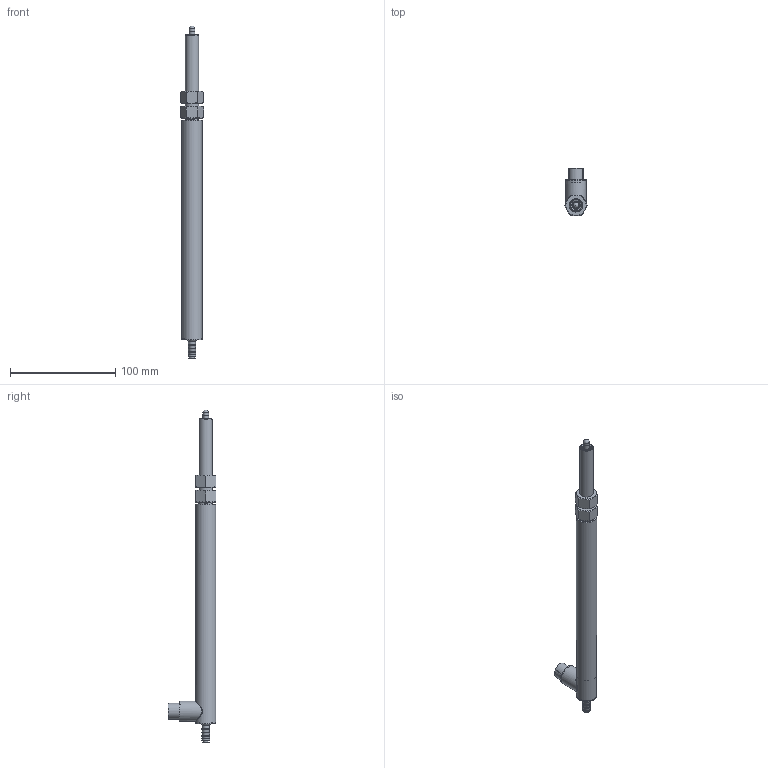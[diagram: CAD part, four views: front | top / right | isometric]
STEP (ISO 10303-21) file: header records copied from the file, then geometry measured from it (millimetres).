
FILE_DESCRIPTION(/* description */ (''),/* implementation_level */ '2;1');
FILE_NAME(/* name */ 'F:\GHRA SERIES\GHRA-750-D-XXXX\GHRA-750-D-1000\GHRA-750-D-1000 Assembly.iam.stp',/* time_stamp */ '2021-11-17T12:46:05-05:00',/* author */ ('J. Nielson'),/* organization */ (''),/* preprocessor_version */ 'ST-DEVELOPER v18.1',/* originating_system */ 'Autodesk Inventor 2022',/* authorisation */ '');
FILE_SCHEMA (('AUTOMOTIVE_DESIGN { 1 0 10303 214 3 1 1 }'));
Length unit declared in the file: inch
Products named in the file (4): GHRA-750-A-1000 Assembly; GHRA-750-A-1000 HOUSING_Substitute_1; GHRA-750-A-1000 SHAFT_Substitute_1; AS 2465 - 1/2  UNF
Assembly tree (4 placements, depth 2):
  GHRA-750-A-1000 Assembly
    GHRA-750-A-1000 HOUSING_Substitute_1
    GHRA-750-A-1000 SHAFT_Substitute_1
    AS 2465 - 1/2  UNF  x2
Bounding box: 22 x 45.24 x 314.83 mm (x, y, z)
Volume: 36787.6 mm3; surface area: 41064.1 mm2
Topology: 17 solids, 17 shells, 210 faces, 417 edges, 265 vertices
Faces by surface type: plane 82, cylinder 68, cone 47, bspline 7, torus 5, sphere 1
Full cylindrical faces by diameter (mm): 0.762 x12, 2.845 x3, 4.762 x1, 4.826 x2, 5.334 x4, 5.397 x1, 6 x1, 6.731 x1, 7.493 x4, 7.671 x2, 7.874 x1, 11.328 x2, 12.7 x1, 13.208 x1, 14.986 x1, 15.748 x2, 16.51 x1, 17.018 x1, 17.069 x1, 17.78 x1, 18.034 x1, 18.415 x6, 19.05 x2
Entity records: 7367 total; most frequent: CARTESIAN_POINT 3026, DIRECTION 898, ORIENTED_EDGE 730, AXIS2_PLACEMENT_3D 384, EDGE_CURVE 365, EDGE_LOOP 239, VERTEX_POINT 236, CIRCLE 196
